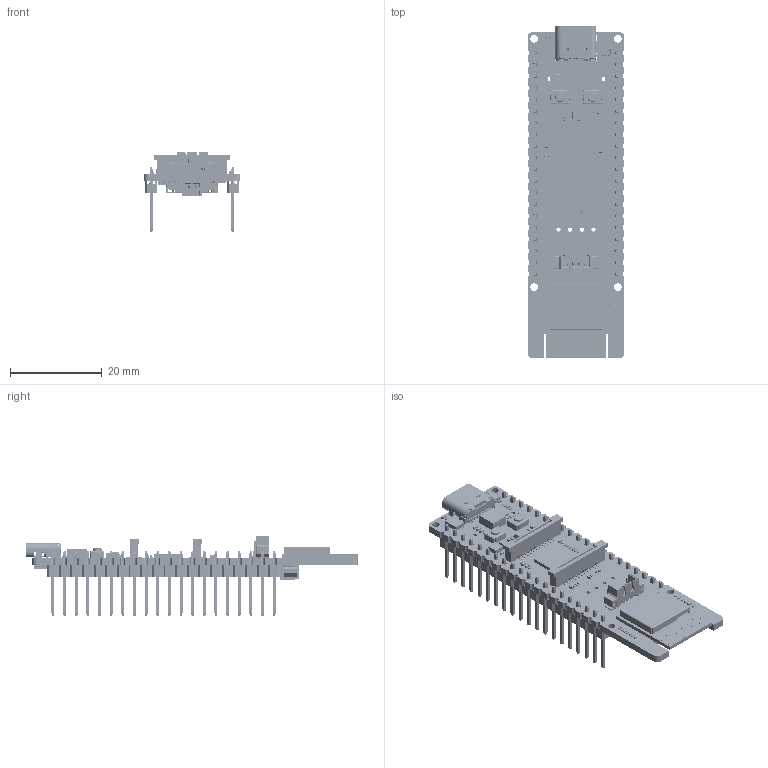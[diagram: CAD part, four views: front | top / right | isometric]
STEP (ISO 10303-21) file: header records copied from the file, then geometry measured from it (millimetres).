
FILE_DESCRIPTION((''),'2;1');
FILE_NAME('ESP32-P4-WIFI6_ASM','2026-01-09T16:38:45',('ag'),(''),'CREO PARAMETRIC BY PTC INC, 2021063','CREO PARAMETRIC BY PTC INC, 2021063','');
FILE_SCHEMA(('CONFIG_CONTROL_DESIGN','SHAPE_APPEARANCE_LAYERS_GROUPS'));
Products named in the file (407): BOARD-801; USER_LIBRARY-RES_0603-0201_1; USER_LIBRARY-RES_0603-0201_2; USER_LIBRARY-RES_0603-0201_3; USER_LIBRARY-RES_0603-0201_4; USER_LIBRARY-RES_0603-0201_ASM; R68_ASM; USER_LIBRARY-0201_0603M__CAP_1; USER_LIBRARY-0201_0603M__CAP_2; USER_LIBRARY-0201_0603M__CAP_3; USER_LIBRARY-0201_0603M__CAP_ASM; C70_ASM; L0402_1; L0402_2; L0402_3; L0402_ASM; ED1_ASM; C112_ASM; C100_ASM; C99_ASM; C89_ASM; C88_ASM; FPC-22PX0_5MM-DISPLAY; J1_ASM; BOARD-94611; EXTRUDED-95378; 858032368_ASM; CYLINDER; 858032240_ASM; EXTRUDED_2; 858031856_ASM; CYLINDER_2; 857275360_ASM; EXTRUDED_3; 894460672_ASM; DESIGNATOR14_ASM; USER_LIBRARY-WSON-8_6X8MM_ASM; U7_ASM; _1_10001; 3_1_A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
Assembly tree (627 placements, depth 9):
  ESP32-P4-WIFI6_ASM
    BOARD-801
    R68_ASM
      USER_LIBRARY-RES_0603-0201_ASM
        USER_LIBRARY-RES_0603-0201_1
        USER_LIBRARY-RES_0603-0201_2
        USER_LIBRARY-RES_0603-0201_3
        USER_LIBRARY-RES_0603-0201_4
    C70_ASM
      USER_LIBRARY-0201_0603M__CAP_ASM
        USER_LIBRARY-0201_0603M__CAP_1
        USER_LIBRARY-0201_0603M__CAP_2
        USER_LIBRARY-0201_0603M__CAP_3
    ED1_ASM
      L0402_ASM
        L0402_1
        L0402_2
        L0402_3
    C112_ASM
      USER_LIBRARY-0201_0603M__CAP_ASM
        USER_LIBRARY-0201_0603M__CAP_1
        USER_LIBRARY-0201_0603M__CAP_2
        USER_LIBRARY-0201_0603M__CAP_3
    C100_ASM
      USER_LIBRARY-0201_0603M__CAP_ASM
        USER_LIBRARY-0201_0603M__CAP_1
        USER_LIBRARY-0201_0603M__CAP_2
        USER_LIBRARY-0201_0603M__CAP_3
    C99_ASM
      USER_LIBRARY-0201_0603M__CAP_ASM
        USER_LIBRARY-0201_0603M__CAP_1
        USER_LIBRARY-0201_0603M__CAP_2
        USER_LIBRARY-0201_0603M__CAP_3
    C89_ASM
      USER_LIBRARY-0201_0603M__CAP_ASM
        USER_LIBRARY-0201_0603M__CAP_1
        USER_LIBRARY-0201_0603M__CAP_2
        USER_LIBRARY-0201_0603M__CAP_3
    C88_ASM
      USER_LIBRARY-0201_0603M__CAP_ASM
        USER_LIBRARY-0201_0603M__CAP_1
        USER_LIBRARY-0201_0603M__CAP_2
        USER_LIBRARY-0201_0603M__CAP_3
    J1_ASM
      FPC-22PX0_5MM-DISPLAY
    U7_ASM
      USER_LIBRARY-WSON-8_6X8MM_ASM
        BOARD-94611
        DESIGNATOR14_ASM
          858032368_ASM
            EXTRUDED-95378
          858032240_ASM  x8
            CYLINDER
          858031856_ASM  x8
            EXTRUDED_2
          857275360_ASM
            CYLINDER_2
          894460672_ASM
            EXTRUDED_3
    C121_ASM
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Bounding box: 21.02 x 72.41 x 17.3 mm (x, y, z)
Volume: 3927.7 mm3; surface area: 10402.2 mm2
Topology: 782 solids, 796 shells, 34392 faces, 88973 edges, 57127 vertices
Faces by surface type: plane 21532, extrusion 7474, cylinder 4191, sphere 1081, torus 48, cone 36, bspline 30
Entity records: 345496 total; most frequent: CARTESIAN_POINT 64031, ORIENTED_EDGE 44652, DIRECTION 42990, EDGE_CURVE 22327, VECTOR 18648, LINE 18168, PRESENTATION_STYLE_ASSIGNMENT 16254, VERTEX_POINT 14573
